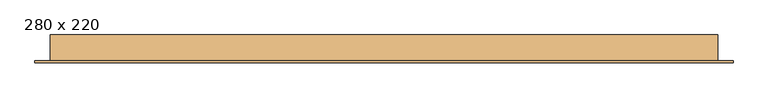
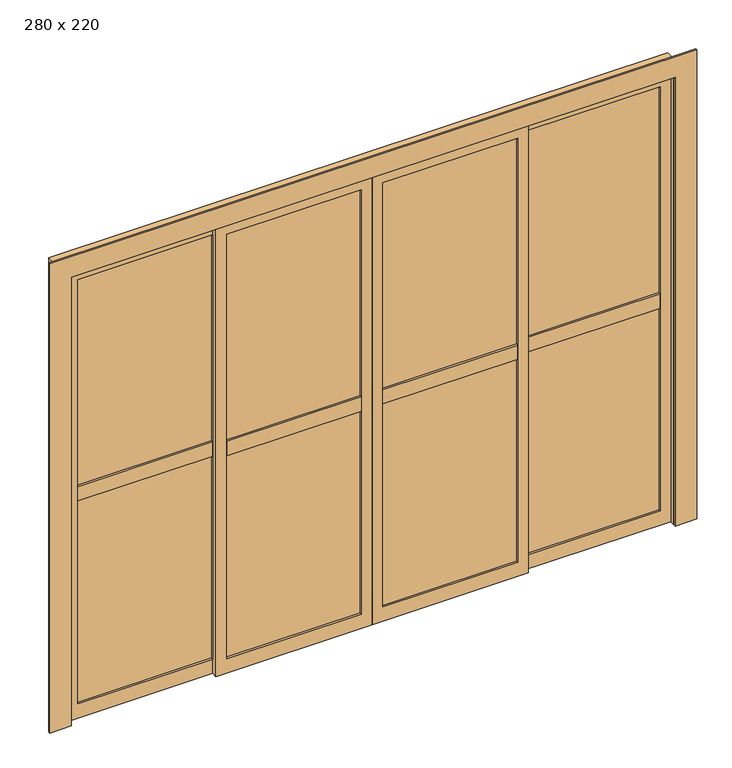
"""IFC4 building model written with IfcOpenShell, lengths in millimetres: door geometry, PORTA DE VIDRO COM ESQUADRIA DE CORRER - 4 FOLHAS + VENEZIANA DE CORRER - 4 FOLHAS : 280 x 220."""

from ifc_helpers import new_model, si_unit, frame, origin, place, context, project, spatial, polyline, outline, extrude, source, transform, mapped, element, save


def door_280_x_220_79a5b8a2(model_context):
    return source(origin(), model_context, "Body", "SweptSolid", [
        extrude(outline(polyline([(2.9682931, 79.9275362), (-17.0317069, 114.9275362), (-12.0317069, 114.9275362), (7.9682931, 79.9275362), (2.9682931, 79.9275362)])), frame((-1016.0865116, 0.0, 0.0), z_axis=(1.0, 0.0, 0.0), x_axis=(0.0, 1.0, 0.0)), (0.0, 0.0, 1.0), 625.0),
        extrude(outline(polyline([(2.9682931, 2115.0), (-17.0317069, 2150.0), (-12.0317069, 2150.0), (7.9682931, 2115.0), (2.9682931, 2115.0)])), frame((-1016.0865116, 0.0, 0.0), z_axis=(1.0, 0.0, 0.0), x_axis=(0.0, 1.0, 0.0)), (0.0, 0.0, 1.0), 625.0),
        extrude(outline(polyline([(2.9682931, 50.0), (-17.0317069, 85.0), (-12.0317069, 85.0), (7.9682931, 50.0), (2.9682931, 50.0)])), frame((-1016.0865116, 0.0, 0.0), z_axis=(1.0, 0.0, 0.0), x_axis=(0.0, 1.0, 0.0)), (0.0, 0.0, 1.0), 625.0),
        extrude(outline(polyline([(2200.0, -341.0865116), (2200.0, -1066.0865116), (0.0, -1066.0865116), (0.0, -341.0865116), (2200.0, -341.0865116)]), holes=[polyline([(2150.0, -391.0865116), (50.0, -391.0865116), (50.0, -1016.0865116), (2150.0, -1016.0865116), (2150.0, -391.0865116)])]), frame((0.0, -17.0317069, 0.0), z_axis=(0.0, 1.0, 0.0), x_axis=(0.0, 0.0, 1.0)), (0.0, 0.0, 1.0), 25.0),
        extrude(outline(polyline([(983.9134884, -17.0317069), (1608.9134884, -17.0317069), (1608.9134884, -42.0317069), (983.9134884, -42.0317069), (983.9134884, -17.0317069)])), frame((0.0, 0.0, 1065.0), z_axis=(0.0, 0.0, 1.0), x_axis=(1.0, 0.0, 0.0)), (0.0, 0.0, 1.0), 70.0),
        extrude(outline(polyline([(1608.9134884, -26.5317069), (1608.9134884, -32.5317069), (983.9134884, -32.5317069), (983.9134884, -26.5317069), (1608.9134884, -26.5317069)])), frame((0.0, 0.0, 70.0), z_axis=(0.0, 0.0, 1.0), x_axis=(1.0, 0.0, 0.0)), (0.0, 0.0, 1.0), 2080.0),
        extrude(outline(polyline([(2200.0, 1658.9134884), (2200.0, 933.9134884), (0.0, 933.9134884), (0.0, 1658.9134884), (2200.0, 1658.9134884)]), holes=[polyline([(2150.0, 1608.9134884), (70.0, 1608.9134884), (70.0, 983.9134884), (2150.0, 983.9134884), (2150.0, 1608.9134884)])]), frame((0.0, -42.0317069, 0.0), z_axis=(0.0, 1.0, 0.0), x_axis=(0.0, 0.0, 1.0)), (0.0, 0.0, 1.0), 25.0),
        extrude(outline(polyline([(-1091.0865116, -17.0317069), (-466.0865116, -17.0317069), (-466.0865116, -42.0317069), (-1091.0865116, -42.0317069), (-1091.0865116, -17.0317069)])), frame((0.0, 0.0, 1065.0), z_axis=(0.0, 0.0, 1.0), x_axis=(1.0, 0.0, 0.0)), (0.0, 0.0, 1.0), 70.0),
        extrude(outline(polyline([(-466.0865116, -26.5317069), (-466.0865116, -32.5317069), (-1091.0865116, -32.5317069), (-1091.0865116, -26.5317069), (-466.0865116, -26.5317069)])), frame((0.0, 0.0, 70.0), z_axis=(0.0, 0.0, 1.0), x_axis=(1.0, 0.0, 0.0)), (0.0, 0.0, 1.0), 2080.0),
        extrude(outline(polyline([(2200.0, -416.0865116), (2200.0, -1141.0865116), (0.0, -1141.0865116), (0.0, -416.0865116), (2200.0, -416.0865116)]), holes=[polyline([(2150.0, -466.0865116), (70.0, -466.0865116), (70.0, -1091.0865116), (2150.0, -1091.0865116), (2150.0, -466.0865116)])]), frame((0.0, -42.0317069, 0.0), z_axis=(0.0, 1.0, 0.0), x_axis=(0.0, 0.0, 1.0)), (0.0, 0.0, 1.0), 25.0),
        extrude(outline(polyline([(933.9134884, -67.0317069), (308.9134884, -67.0317069), (308.9134884, -42.0317069), (933.9134884, -42.0317069), (933.9134884, -67.0317069)])), frame((0.0, 0.0, 1065.0), z_axis=(0.0, 0.0, 1.0), x_axis=(1.0, 0.0, 0.0)), (0.0, 0.0, 1.0), 70.0),
        extrude(outline(polyline([(308.9134884, -57.5317069), (308.9134884, -51.5317069), (933.9134884, -51.5317069), (933.9134884, -57.5317069), (308.9134884, -57.5317069)])), frame((0.0, 0.0, 70.0), z_axis=(0.0, 0.0, 1.0), x_axis=(1.0, 0.0, 0.0)), (0.0, 0.0, 1.0), 2080.0),
        extrude(outline(polyline([(2200.0, 258.9134884), (0.0, 258.9134884), (0.0, 983.9134884), (2200.0, 983.9134884), (2200.0, 258.9134884)]), holes=[polyline([(2150.0, 308.9134884), (2150.0, 933.9134884), (70.0, 933.9134884), (70.0, 308.9134884), (2150.0, 308.9134884)])]), frame((0.0, -67.0317069, 0.0), z_axis=(0.0, 1.0, 0.0), x_axis=(0.0, 0.0, 1.0)), (0.0, 0.0, 1.0), 25.0),
        extrude(outline(polyline([(-416.0865116, -42.0317069), (208.9134884, -42.0317069), (208.9134884, -67.0317069), (-416.0865116, -67.0317069), (-416.0865116, -42.0317069)])), frame((0.0, 0.0, 1065.0), z_axis=(0.0, 0.0, 1.0), x_axis=(1.0, 0.0, 0.0)), (0.0, 0.0, 1.0), 70.0),
        extrude(outline(polyline([(208.9134884, -51.5317069), (208.9134884, -57.5317069), (-416.0865116, -57.5317069), (-416.0865116, -51.5317069), (208.9134884, -51.5317069)])), frame((0.0, 0.0, 70.0), z_axis=(0.0, 0.0, 1.0), x_axis=(1.0, 0.0, 0.0)), (0.0, 0.0, 1.0), 2080.0),
        extrude(outline(polyline([(2200.0, 258.9134884), (2200.0, -466.0865116), (0.0, -466.0865116), (0.0, 258.9134884), (2200.0, 258.9134884)]), holes=[polyline([(2150.0, 208.9134884), (70.0, 208.9134884), (70.0, -416.0865116), (2150.0, -416.0865116), (2150.0, 208.9134884)])]), frame((0.0, -67.0317069, 0.0), z_axis=(0.0, 1.0, 0.0), x_axis=(0.0, 0.0, 1.0)), (0.0, 0.0, 1.0), 25.0),
        extrude(outline(polyline([(2200.0, -1141.0865116), (2200.0, 1658.9134884), (0.0, 1658.9134884), (0.0, 1758.9134884), (2300.0, 1758.9134884), (2300.0, -1241.0865116), (0.0, -1241.0865116), (0.0, -1141.0865116), (2200.0, -1141.0865116)])), frame((0.0, -77.0317069, 0.0), z_axis=(0.0, 1.0, 0.0), x_axis=(0.0, 0.0, 1.0)), (0.0, 0.0, 1.0), 10.0),
        extrude(outline(polyline([(2235.0, 1693.9134884), (2235.0, -1176.0865116), (0.0, -1176.0865116), (0.0, -1141.0865116), (2200.0, -1141.0865116), (2200.0, 1658.9134884), (0.0, 1658.9134884), (0.0, 1693.9134884), (2235.0, 1693.9134884)])), frame((0.0, -67.0317069, 0.0), z_axis=(0.0, 1.0, 0.0), x_axis=(0.0, 0.0, 1.0)), (0.0, 0.0, 1.0), 110.0),
    ])


if __name__ == "__main__":
    model = new_model("IFC4")
    model_context = context("Model", 3, world=origin())
    ifc_project = project(units=[si_unit("LENGTHUNIT", "METRE", prefix="MILLI")], contexts=[model_context])
    site = spatial("IfcSite", under=ifc_project)
    building = spatial("IfcBuilding", under=site)
    placement = place(None, origin())
    door_280_x_220_shape = door_280_x_220_79a5b8a2(model_context)
    element("IfcDoor", 1, ObjectType="PORTA DE VIDRO COM ESQUADRIA DE CORRER - 4 FOLHAS + VENEZIANA DE CORRER - 4 FOLHAS : 280 x 220", at=placement, inside=building, context=model_context, shape_type="MappedRepresentation", body=[
        mapped(door_280_x_220_shape, transform((0.0, 0.0, 0.0), x_axis=(1.0, 0.0, 0.0), y_axis=(0.0, 1.0, 0.0), z_axis=(0.0, 0.0, 1.0))),
    ])
    save(model, "model.ifc")
